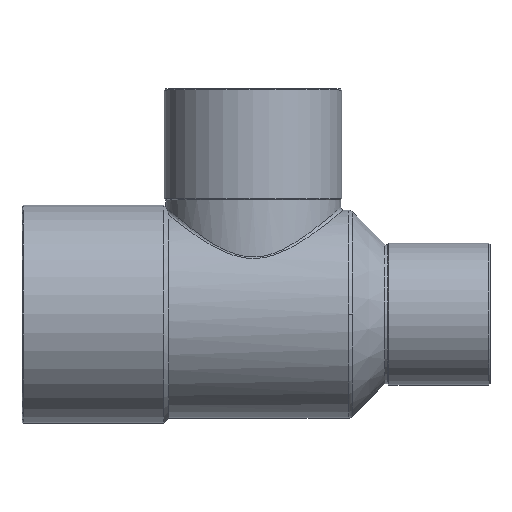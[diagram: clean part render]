
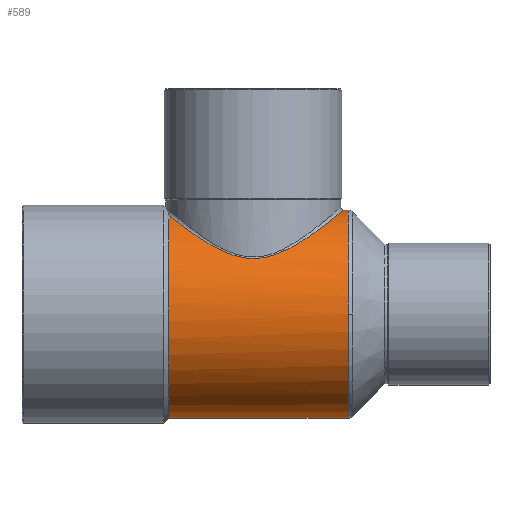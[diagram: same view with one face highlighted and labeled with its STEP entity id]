
A CAD part, top view. The second image highlights one B-rep face of the part: STEP entity #589.
In plain terms, the highlighted cylindrical face has radius 18 mm (diameter 36 mm), a partial arc.
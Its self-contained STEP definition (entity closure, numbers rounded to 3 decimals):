
#451=CARTESIAN_POINT('',(-14.628,-18.,0.));
#452=VERTEX_POINT('',#451);
#459=CARTESIAN_POINT('',(-14.628,17.167,5.413));
#460=VERTEX_POINT('',#459);
#461=CARTESIAN_POINT('',(-14.628,0.0,0.0));
#462=DIRECTION('',(1.0,0.0,0.0));
#463=DIRECTION('',(0.0,1.0,0.0));
#464=AXIS2_PLACEMENT_3D('',#461,#462,#463);
#465=CIRCLE('',#464,18.);
#466=EDGE_CURVE('',#460,#452,#465,.T.);
#522=CARTESIAN_POINT('',(1.115,0.0,0.0));
#523=DIRECTION('',(1.0,0.0,0.0));
#524=DIRECTION('',(0.0,1.0,0.0));
#525=AXIS2_PLACEMENT_3D('',#522,#523,#524);
#526=CYLINDRICAL_SURFACE('',#525,18.);
#527=CARTESIAN_POINT('',(15.65,18.,0.));
#528=VERTEX_POINT('',#527);
#529=CARTESIAN_POINT('',(16.444,18.,0.0));
#530=VERTEX_POINT('',#529);
#531=CARTESIAN_POINT('',(15.65,18.,0.));
#532=DIRECTION('',(1.0,0.0,0.));
#533=VECTOR('',#532,0.794);
#534=LINE('',#531,#533);
#535=EDGE_CURVE('',#528,#530,#534,.T.);
#536=ORIENTED_EDGE('',*,*,#535,.F.);
#537=CARTESIAN_POINT('',(-14.628,17.167,5.413));
#538=CARTESIAN_POINT('',(-13.897,16.578,7.282));
#539=CARTESIAN_POINT('',(-12.828,15.725,8.917));
#540=CARTESIAN_POINT('',(-11.54,14.772,10.285));
#541=CARTESIAN_POINT('',(-10.115,13.718,11.799));
#542=CARTESIAN_POINT('',(-8.437,12.533,12.989));
#543=CARTESIAN_POINT('',(-6.515,11.503,13.845));
#544=CARTESIAN_POINT('',(-4.435,10.388,14.771));
#545=CARTESIAN_POINT('',(-1.953,9.468,15.31));
#546=CARTESIAN_POINT('',(0.592,9.616,15.216));
#547=CARTESIAN_POINT('',(3.596,9.791,15.106));
#548=CARTESIAN_POINT('',(6.285,11.262,14.183));
#549=CARTESIAN_POINT('',(8.516,12.68,12.776));
#550=CARTESIAN_POINT('',(10.489,13.935,11.53));
#551=CARTESIAN_POINT('',(12.167,15.224,9.871));
#552=CARTESIAN_POINT('',(13.43,16.214,7.818));
#553=CARTESIAN_POINT('',(14.241,16.849,6.499));
#554=CARTESIAN_POINT('',(14.882,17.371,4.987));
#555=CARTESIAN_POINT('',(15.257,17.678,3.392));
#556=CARTESIAN_POINT('',(15.515,17.888,2.293));
#557=CARTESIAN_POINT('',(15.65,18.,1.144));
#558=CARTESIAN_POINT('',(15.65,18.,0.));
#559=B_SPLINE_CURVE_WITH_KNOTS('',3,(#537,#538,#539,#540,#541,#542,#543,#544,#545,#546,#547,#548,#549,#550,#551,#552,#553,#554,#555,#556,#557,#558),.UNSPECIFIED.,.F.,.U.,(4,3,3,3,3,3,3,4),(10.497,11.135,11.841,12.605,13.506,14.304,14.817,15.169),.UNSPECIFIED.);
#560=EDGE_CURVE('',#460,#528,#559,.T.);
#561=ORIENTED_EDGE('',*,*,#560,.F.);
#562=ORIENTED_EDGE('',*,*,#466,.T.);
#563=CARTESIAN_POINT('',(16.444,-18.,0.));
#564=VERTEX_POINT('',#563);
#565=CARTESIAN_POINT('',(16.444,-18.,0.));
#566=DIRECTION('',(-1.0,0.0,0.0));
#567=VECTOR('',#566,31.072);
#568=LINE('',#565,#567);
#569=EDGE_CURVE('',#564,#452,#568,.T.);
#570=ORIENTED_EDGE('',*,*,#569,.F.);
#571=CARTESIAN_POINT('',(16.444,0.,18.));
#572=VERTEX_POINT('',#571);
#573=CARTESIAN_POINT('',(16.444,0.0,0.0));
#574=DIRECTION('',(1.0,0.0,0.0));
#575=DIRECTION('',(0.0,-1.0,0.0));
#576=AXIS2_PLACEMENT_3D('',#573,#574,#575);
#577=CIRCLE('',#576,18.);
#578=EDGE_CURVE('',#572,#564,#577,.T.);
#579=ORIENTED_EDGE('',*,*,#578,.F.);
#580=CARTESIAN_POINT('',(16.444,0.0,0.0));
#581=DIRECTION('',(1.0,0.0,0.0));
#582=DIRECTION('',(0.0,-1.0,0.0));
#583=AXIS2_PLACEMENT_3D('',#580,#581,#582);
#584=CIRCLE('',#583,18.);
#585=EDGE_CURVE('',#530,#572,#584,.T.);
#586=ORIENTED_EDGE('',*,*,#585,.F.);
#587=EDGE_LOOP('',(#536,#561,#562,#570,#579,#586));
#588=FACE_OUTER_BOUND('',#587,.T.);
#589=ADVANCED_FACE('',(#588),#526,.T.);
